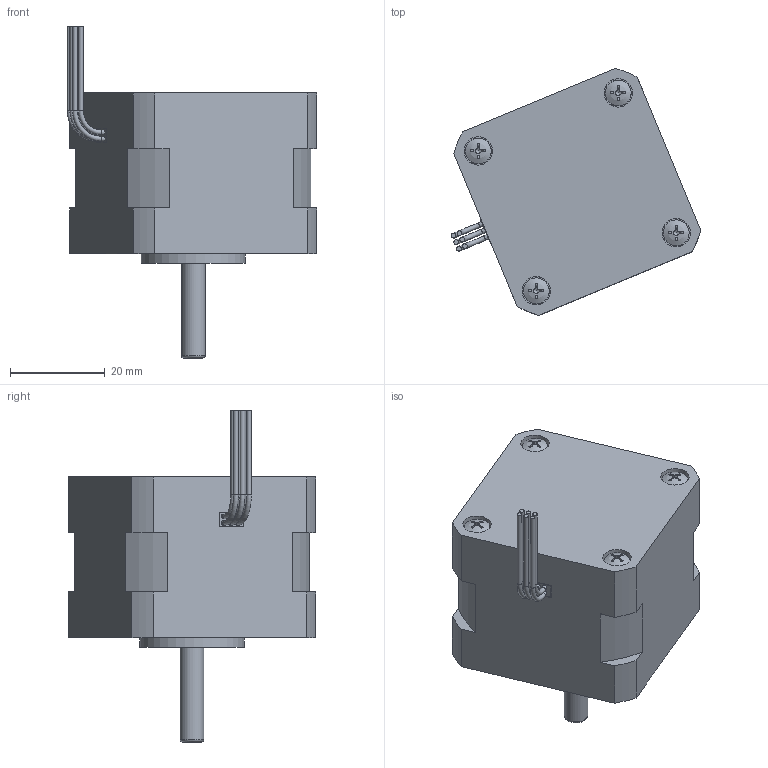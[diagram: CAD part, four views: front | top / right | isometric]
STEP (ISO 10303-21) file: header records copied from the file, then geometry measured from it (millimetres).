
FILE_DESCRIPTION(/* description */ (''),/* implementation_level */ '2;1');
FILE_NAME(/* name */ 'JK42HS34-0168-01.prt.step',/* time_stamp */ '2020-03-31T10:32:06+08:00',/* author */ (''),/* organization */ (''),/* preprocessor_version */ 'ST-DEVELOPER v14',/* originating_system */ 'SIEMENS PLM Software NX 8.0',/* authorisation */ '');
FILE_SCHEMA (('AUTOMOTIVE_DESIGN { 1 0 10303 214 3 1 1 1 }'));
Products named in the file (3): M3-luoding; dianjizhuti; JK42HS34-0168-01
Assembly tree (5 placements, depth 2):
  JK42HS34-0168-01
    dianjizhuti
    M3-luoding  x4
Bounding box: 52.75 x 52.22 x 70.15 mm (x, y, z)
Volume: 58917.2 mm3; surface area: 12855.8 mm2
Topology: 17 solids, 17 shells, 269 faces, 647 edges, 415 vertices
Faces by surface type: plane 129, cylinder 66, cone 32, torus 29, bspline 9, sphere 4
Full cylindrical faces by diameter (mm): 1 x16, 2.458 x4, 2.459 x4, 2.675 x4, 3 x4, 3.5 x4, 5 x1, 5.45 x4, 6 x4, 22.03 x1
Entity records: 37671 total; most frequent: CARTESIAN_POINT 34329, DIRECTION 662, ORIENTED_EDGE 592, EDGE_CURVE 296, AXIS2_PLACEMENT_3D 289, EDGE_LOOP 217, VERTEX_POINT 216, ADVANCED_FACE 155
